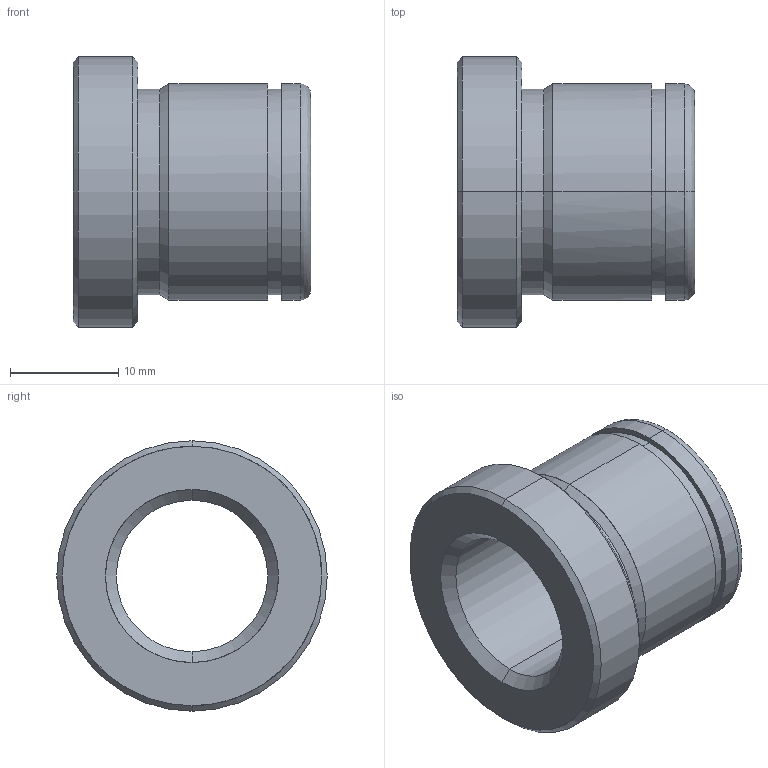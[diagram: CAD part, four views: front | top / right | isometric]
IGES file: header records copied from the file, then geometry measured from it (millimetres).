
Start section: START RECORD GO HERE.
Global section: file name: 553-14X22.igs; native system: DASSAULT SYSTEMES CATIA V5 R20 - www.3ds.com; preprocessor: CATIA Version 5 Release 20 ; author: Utente; organization: NB04-ASUS; date: 20210521.202729; units: millimetre
Bounding box: 22 x 25 x 25 mm (x, y, z)
Surface area: 3080.6 mm2 (no closed solid volume)
Topology: 0 solids, 0 shells, 29 faces, 184 edges, 184 vertices
Faces by surface type: revolution 24, plane 5
